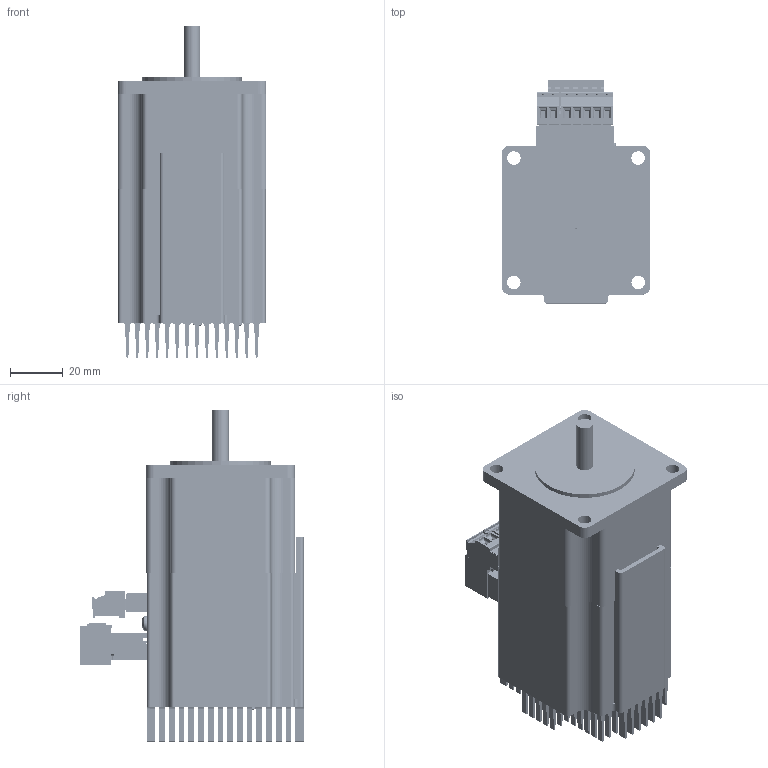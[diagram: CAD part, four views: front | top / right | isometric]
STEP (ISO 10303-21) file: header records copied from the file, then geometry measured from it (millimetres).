
FILE_DESCRIPTION(/* description */ ('Alibre Inc.'),/* implementation_level */ '2;1');
FILE_NAME(/* name */ 'export-29DF16CD-468E-4E2D-9D0C-05298C83DFED',/* time_stamp */ '2019-01-24T15:22:09-08:00',/* author */ (''),/* organization */ (''),/* preprocessor_version */ 'ST-DEVELOPER v17',/* originating_system */ 'Alibre',/* authorisation */ '');
FILE_SCHEMA (('AUTOMOTIVE_DESIGN'));
Length unit declared in the file: inch
Products named in the file (52): 91771A120; 91772A106
Bounding box: 56.4 x 84.65 x 125.86 mm (x, y, z)
Volume: 179121.1 mm3; surface area: 105197.6 mm2
Topology: 37 solids, 46 shells, 9771 faces, 27608 edges, 18030 vertices
Faces by surface type: plane 6334, cylinder 3085, cone 149, bspline 138, sphere 35, torus 30
Full cylindrical faces by diameter (mm): 0.254 x12, 0.483 x2, 0.508 x2, 0.635 x1, 1.397 x12, 1.524 x9, 1.694 x2, 2.007 x1, 2.156 x7, 2.459 x8, 2.54 x2, 2.705 x2, 2.845 x2, 3 x4, 3.175 x8, 3.556 x2, 3.571 x4, 4.089 x6, 4.216 x2, 5.1 x4, 5.182 x2, 5.563 x2, 6.35 x2, 7.925 x1, 38.1 x1
Entity records: 302812 total; most frequent: CARTESIAN_POINT 86435, ORIENTED_EDGE 49524, DIRECTION 35563, EDGE_CURVE 24762, VECTOR 17440, LINE 17440, VERTEX_POINT 16229, AXIS2_PLACEMENT_3D 11723
